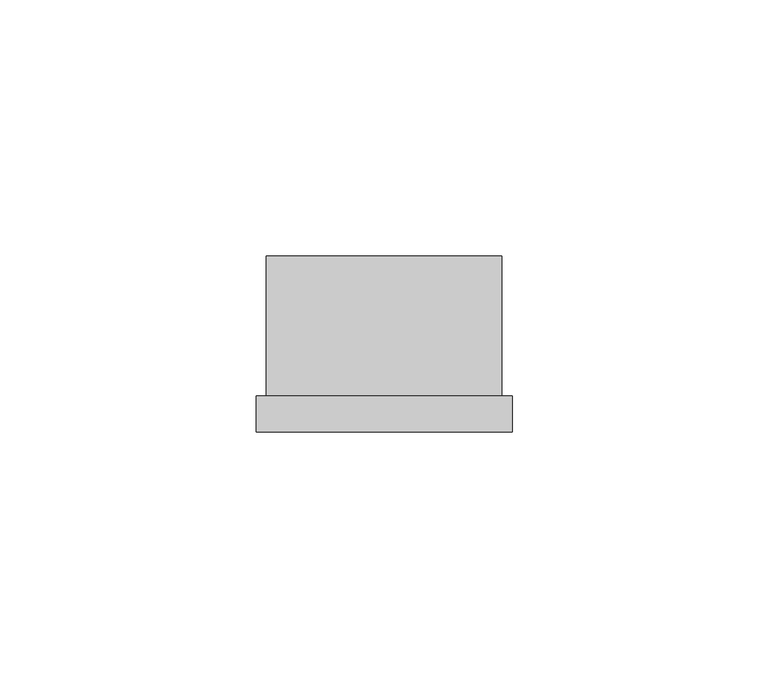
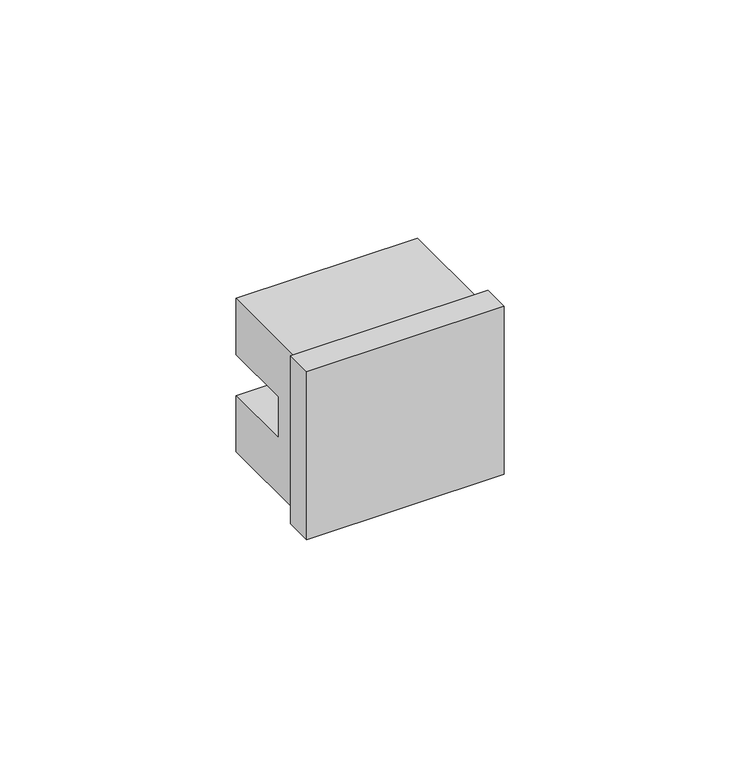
"""IFC4 building model written with IfcOpenShell, lengths in millimetres: proxy geometry, КНС_ВыключателиПереключатели_DKC : Выключатель типа кнопка."""

from ifc_helpers import new_model, si_unit, frame, origin, place, context, project, spatial, polyline, outline, extrude, source, transform, mapped, element, save


def electrical_fixtures_17163a05(model_context):
    return source(origin(), model_context, "Body", "SweptSolid", [
        extrude(outline(polyline([(25.0, -34.4), (-25.0, -34.4), (-25.0, -27.4), (25.0, -27.4), (25.0, -34.4)])), frame((0.0, 0.0, -22.5), z_axis=(0.0, 0.0, 1.0), x_axis=(1.0, 0.0, 0.0)), (0.0, 0.0, 1.0), 45.0),
        extrude(outline(polyline([(0.0, 20.5), (0.0, 5.5), (-18.7179028, 5.5), (-18.7179028, -5.4624854), (0.0, -5.4624854), (0.0, -20.5), (-27.4, -20.5), (-27.4, 20.5), (0.0, 20.5)])), frame((-23.0, 0.0, 0.0), z_axis=(1.0, 0.0, 0.0), x_axis=(0.0, 1.0, 0.0)), (0.0, 0.0, 1.0), 46.0),
    ])


if __name__ == "__main__":
    model = new_model("IFC4")
    model_context = context("Model", 3, world=origin())
    ifc_project = project(units=[si_unit("LENGTHUNIT", "METRE", prefix="MILLI")], contexts=[model_context])
    site = spatial("IfcSite", under=ifc_project)
    building = spatial("IfcBuilding", under=site)
    placement = place(None, origin())
    electrical_fixtures_shape = electrical_fixtures_17163a05(model_context)
    element("IfcBuildingElementProxy", 1, Name="КНС_ВыключателиПереключатели_DKC : Выключатель типа кнопка", ObjectType="КНС_ВыключателиПереключатели_DKC : Выключатель типа кнопка", at=placement, inside=building, context=model_context, shape_type="MappedRepresentation", body=[
        mapped(electrical_fixtures_shape, transform((0.0, 0.0, 0.0), x_axis=(1.0, 0.0, 0.0), y_axis=(0.0, 1.0, 0.0), z_axis=(0.0, 0.0, 1.0))),
    ])
    save(model, "model.ifc")
